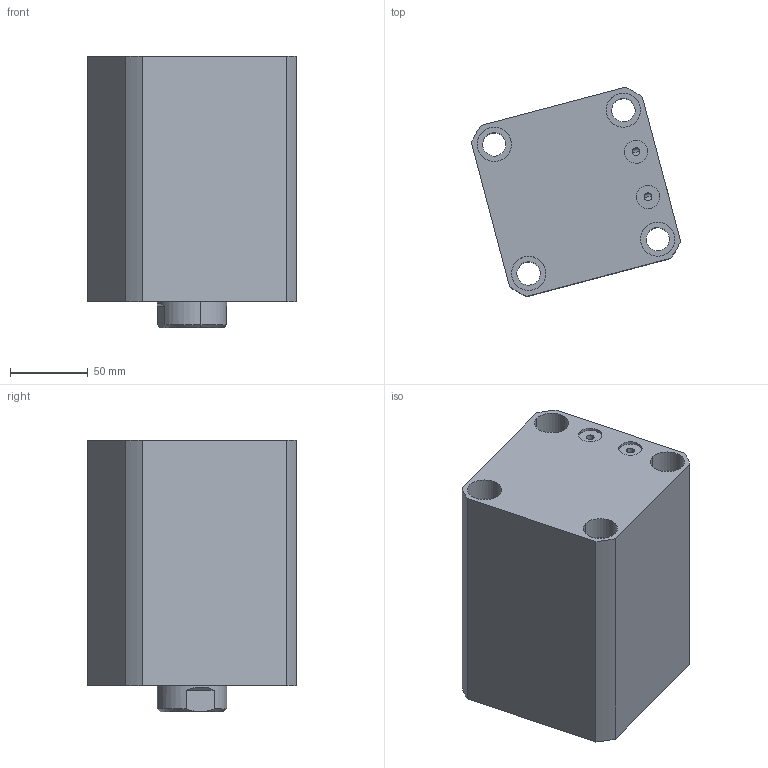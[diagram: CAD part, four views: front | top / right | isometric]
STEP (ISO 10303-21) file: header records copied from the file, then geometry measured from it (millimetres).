
FILE_DESCRIPTION (( 'STEP AP214' ), '1' );
FILE_NAME ('chtb-sdmb80x80n_asm.STEP', '2018-05-25T07:12:09', ( 'Windows' ), ( 'Microsoft' ), 'SwSTEP 2.0', 'SolidWorks 2015', '' );
FILE_SCHEMA (( 'AUTOMOTIVE_DESIGN' ));
Length unit declared in the file: millimetre
Products named in the file (4): CHTB-SDMB80X80NBT; CHTB-SD80X80NHSG; CHTB-SD80QG; chtb-sdmb80x80n_asm
Assembly tree (3 placements, depth 2):
  chtb-sdmb80x80n_asm
    CHTB-SD80QG
    CHTB-SD80X80NHSG
    CHTB-SDMB80X80NBT
Bounding box: 134.79 x 134.79 x 175 mm (x, y, z)
Volume: 1603690.7 mm3; surface area: 232349.1 mm2
Topology: 3 solids, 3 shells, 190 faces, 516 edges, 345 vertices
Faces by surface type: cylinder 107, plane 35, torus 18, cone 16, bspline 14
Entity records: 15174 total; most frequent: CARTESIAN_POINT 10467, ORIENTED_EDGE 1020, DIRECTION 879, EDGE_CURVE 510, AXIS2_PLACEMENT_3D 368, VERTEX_POINT 345, EDGE_LOOP 227, ADVANCED_FACE 190
